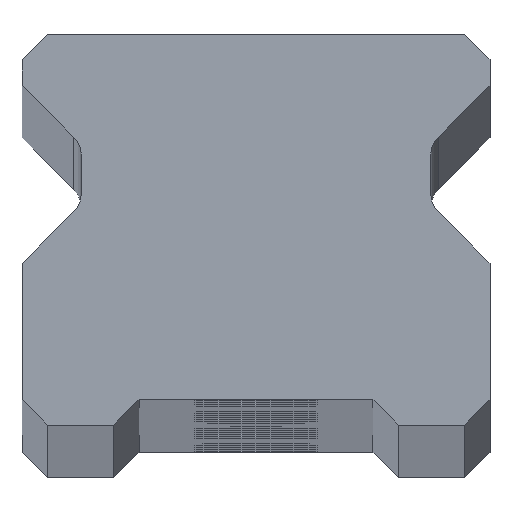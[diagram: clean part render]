
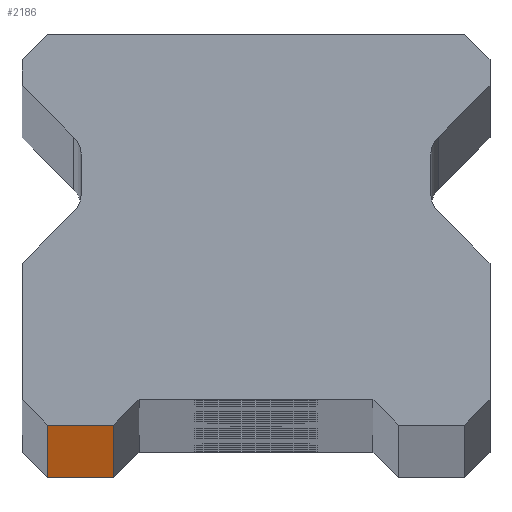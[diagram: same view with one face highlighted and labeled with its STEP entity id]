
A CAD part, top view. The second image highlights one B-rep face of the part: STEP entity #2186.
In plain terms, the highlighted planar face has unit normal (0, -1, 0).
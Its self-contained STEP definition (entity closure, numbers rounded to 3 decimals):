
#35 = LINE ( 'NONE', #4855, #1876 ) ;
#68 = VERTEX_POINT ( 'NONE', #3438 ) ;
#97 = CARTESIAN_POINT ( 'NONE',  ( -10.25, 0., 740. ) ) ;
#241 = CARTESIAN_POINT ( 'NONE',  ( 11.5, 0., 740. ) ) ;
#472 = LINE ( 'NONE', #2952, #2822 ) ;
#541 = VECTOR ( 'NONE', #1023, 1000. ) ;
#651 = DIRECTION ( 'NONE',  ( -1., 0., 0. ) ) ;
#1023 = DIRECTION ( 'NONE',  ( 0., 0., 1. ) ) ;
#1453 = EDGE_CURVE ( 'NONE', #1830, #68, #1958, .T. ) ;
#1498 = VECTOR ( 'NONE', #2341, 1000. ) ;
#1830 = VERTEX_POINT ( 'NONE', #97 ) ;
#1876 = VECTOR ( 'NONE', #2302, 1000. ) ;
#1922 = VERTEX_POINT ( 'NONE', #3249 ) ;
#1958 = LINE ( 'NONE', #4952, #1498 ) ;
#2034 = EDGE_LOOP ( 'NONE', ( #2122, #2047, #5417, #3929 ) ) ;
#2047 = ORIENTED_EDGE ( 'NONE', *, *, #5107, .T. ) ;
#2122 = ORIENTED_EDGE ( 'NONE', *, *, #2496, .T. ) ;
#2186 = ADVANCED_FACE ( 'NONE', ( #3348 ), #2802, .F. ) ;
#2268 = CARTESIAN_POINT ( 'NONE',  ( -7., 0., -740. ) ) ;
#2302 = DIRECTION ( 'NONE',  ( 1., 0., 0. ) ) ;
#2341 = DIRECTION ( 'NONE',  ( 1., 0., 0. ) ) ;
#2496 = EDGE_CURVE ( 'NONE', #3284, #1922, #35, .T. ) ;
#2522 = CARTESIAN_POINT ( 'NONE',  ( -10.25, 0., -740. ) ) ;
#2734 = EDGE_CURVE ( 'NONE', #1830, #3284, #472, .T. ) ;
#2802 = PLANE ( 'NONE',  #4004 ) ;
#2822 = VECTOR ( 'NONE', #3740, 1000. ) ;
#2952 = CARTESIAN_POINT ( 'NONE',  ( -10.25, 0., 740. ) ) ;
#3207 = DIRECTION ( 'NONE',  ( 0., 1., 0. ) ) ;
#3249 = CARTESIAN_POINT ( 'NONE',  ( -7., 0., -740. ) ) ;
#3284 = VERTEX_POINT ( 'NONE', #2522 ) ;
#3348 = FACE_OUTER_BOUND ( 'NONE', #2034, .T. ) ;
#3438 = CARTESIAN_POINT ( 'NONE',  ( -7., 0., 740. ) ) ;
#3740 = DIRECTION ( 'NONE',  ( 0., 0., -1. ) ) ;
#3929 = ORIENTED_EDGE ( 'NONE', *, *, #2734, .T. ) ;
#4004 = AXIS2_PLACEMENT_3D ( 'NONE', #241, #3207, #651 ) ;
#4855 = CARTESIAN_POINT ( 'NONE',  ( 11.5, 0., -740. ) ) ;
#4947 = LINE ( 'NONE', #2268, #541 ) ;
#4952 = CARTESIAN_POINT ( 'NONE',  ( 11.5, 0., 740. ) ) ;
#5107 = EDGE_CURVE ( 'NONE', #1922, #68, #4947, .T. ) ;
#5417 = ORIENTED_EDGE ( 'NONE', *, *, #1453, .F. ) ;
